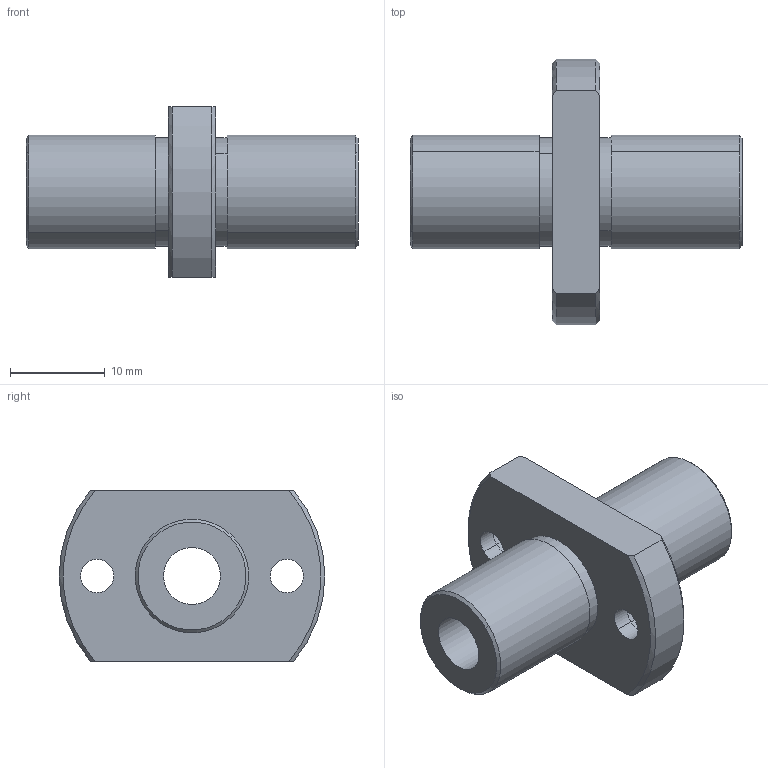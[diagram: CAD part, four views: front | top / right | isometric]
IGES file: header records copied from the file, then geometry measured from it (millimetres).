
Start section: 3D InterOp IGES (Version 21 0 1), Spatial Corp. Copyright (c) 1999-2007.
Global section: file name: NFCO-6VLUU.igs; native system: Spatial Corp.; preprocessor: 3D InterOp GENERIC/IGES 3.0; author: Noname; organization: Noname; date: 20220308.143603; units: millimetre
Bounding box: 35 x 28 x 18 mm (x, y, z)
Surface area: 3198 mm2 (no closed solid volume)
Topology: 0 solids, 0 shells, 38 faces, 180 edges, 180 vertices
Faces by surface type: revolution 28, extrusion 10
